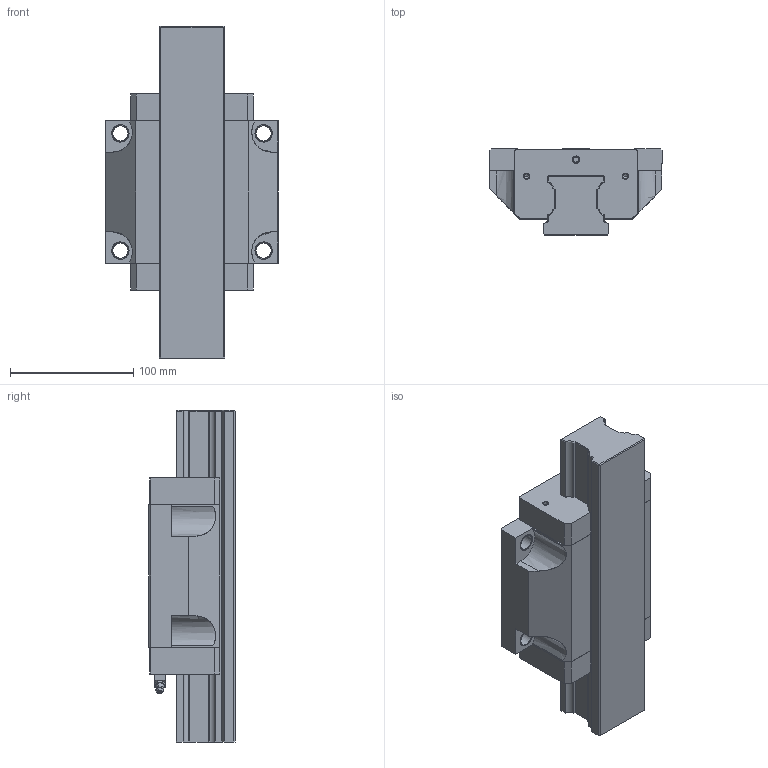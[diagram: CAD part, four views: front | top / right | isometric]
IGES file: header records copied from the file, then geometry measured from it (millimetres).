
Start section: 3D InterOp IGES (v. 2019 1.0.2), Spatial Corp. Copyright (c) 1999-2017.
Global section: file name: R1651_size55.igs; native system: Spatial Corp.; preprocessor: 3D InterOp GENERIC/IGES 3.0; author: Noname; organization: Noname; date: 20220629.124951; units: millimetre
Bounding box: 140 x 70 x 269 mm (x, y, z)
Surface area: 182956.6 mm2 (no closed solid volume)
Topology: 0 solids, 0 shells, 319 faces, 1892 edges, 1876 vertices
Faces by surface type: extrusion 180, revolution 137, bspline 2
